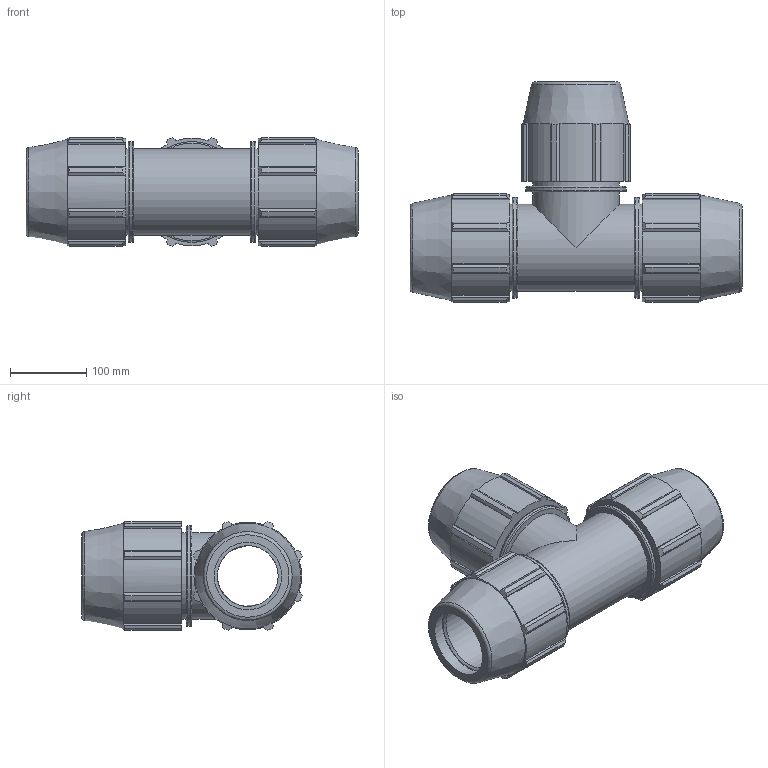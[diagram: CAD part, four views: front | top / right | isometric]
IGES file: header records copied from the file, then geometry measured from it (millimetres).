
Global section: file name: 0704M0300.ipt; native system: Autodesk Inventor 2019; preprocessor: unknown; author: KIM; date: 20210826.124547; units: inch
Bounding box: 435.86 x 289.39 x 142.92 mm (x, y, z)
Volume: 4297359.8 mm3; surface area: 473116.2 mm2
Topology: 1 solids, 1 shells, 212 faces, 606 edges, 411 vertices
Faces by surface type: plane 114, cylinder 56, cone 22, revolution 20
Full cylindrical faces by diameter (mm): 113.919 x5, 132.146 x3
